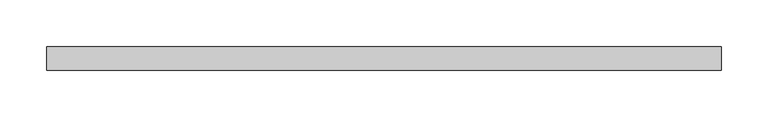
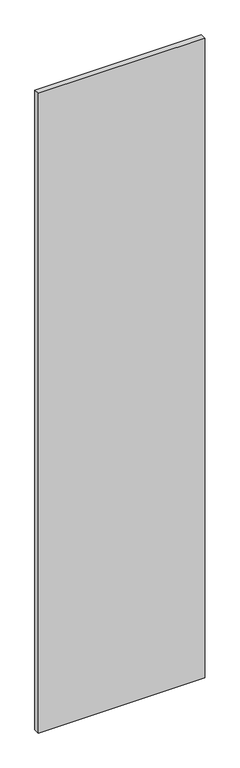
"""IFC4 building model written with IfcOpenShell, lengths in millimetres: plate geometry, Системная панель : ADSK_Cтеклопакет_25."""

from ifc_helpers import new_model, si_unit, origin, origin_with_axes, place, context, project, spatial, polyline, outline, extrude, source, transform, mapped, element, save


def plate_7c09042f(model_context):
    return source(origin(), model_context, "Body", "SweptSolid", [
        extrude(outline(polyline([(360.0, -12.5), (-360.0, -12.5), (-360.0, 12.5), (360.0, 12.5), (360.0, -12.5)])), origin_with_axes(), (0.0, 0.0, 1.0), 2925.0),
    ])


if __name__ == "__main__":
    model = new_model("IFC4")
    model_context = context("Model", 3, world=origin())
    ifc_project = project(units=[si_unit("LENGTHUNIT", "METRE", prefix="MILLI")], contexts=[model_context])
    site = spatial("IfcSite", under=ifc_project)
    building = spatial("IfcBuilding", under=site)
    placement = place(None, origin())
    plate_shape = plate_7c09042f(model_context)
    element("IfcPlate", 1, ObjectType="Системная панель : ADSK_Cтеклопакет_25", at=placement, inside=building, context=model_context, shape_type="MappedRepresentation", body=[
        mapped(plate_shape, transform((0.0, 0.0, 0.0), x_axis=(1.0, 0.0, 0.0), y_axis=(0.0, 1.0, 0.0), z_axis=(0.0, 0.0, 1.0))),
    ])
    save(model, "model.ifc")
